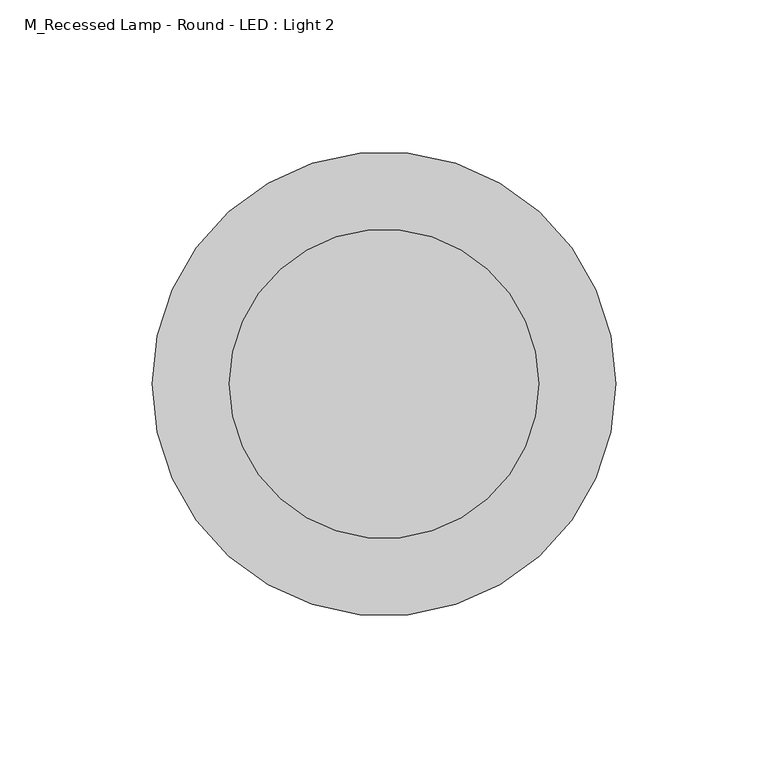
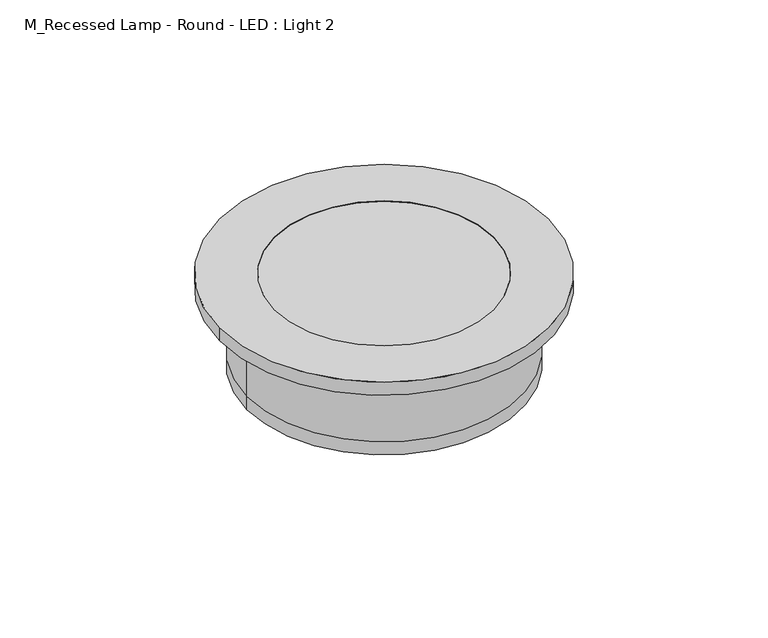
"""IFC4 building model written with IfcOpenShell, lengths in millimetres: light fixture geometry, M_Recessed Lamp - Round - LED : Light 2."""

from ifc_helpers import new_model, si_unit, point, frame, origin, origin_with_axes, origin_2d, place, context, project, spatial, polyline, circle_curve, trimmed, segment, composite_curve, outline, extrude, source, transform, mapped, element, save
from ifc_brep_helpers import plane_surface, cylinder_surface, revolved_surface, advanced_brep


def m_recessed_lamp_round_led_light_2_4ee42974(model_context):
    return source(origin(), model_context, "Body", "SolidModel", [
        extrude(outline(composite_curve([segment(trimmed(circle_curve(origin_2d(), 76.2), [point((-76.2, 0.0))], [point((76.2, 0.0))], False, "CARTESIAN"), True, "CONTINUOUS"), segment(trimmed(circle_curve(origin_2d(), 76.2), [point((76.2, 0.0))], [point((-76.2, 0.0))], False, "CARTESIAN"), True, "CONTINUOUS")], self_intersect=False), holes=[composite_curve([segment(trimmed(circle_curve(origin_2d(), 50.8), [point((-50.8, 0.0))], [point((50.8, 0.0))], True, "CARTESIAN"), True, "CONTINUOUS"), segment(trimmed(circle_curve(origin_2d(), 50.8), [point((50.8, 0.0))], [point((-50.8, 0.0))], True, "CARTESIAN"), True, "CONTINUOUS")], self_intersect=False)]), origin_with_axes(), (0.0, 0.0, 1.0), 6.35),
        extrude(outline(composite_curve([segment(trimmed(circle_curve(origin_2d(), 50.8), [point((-50.8, 0.0))], [point((50.8, 0.0))], False, "CARTESIAN"), True, "CONTINUOUS"), segment(trimmed(circle_curve(origin_2d(), 50.8), [point((50.8, 0.0))], [point((-50.8, 0.0))], False, "CARTESIAN"), True, "CONTINUOUS")], self_intersect=False)), origin_with_axes(), (0.0, 0.0, 1.0), 6.35),
        advanced_brep(
        [(-50.8, 0.0, -31.75), (50.8, 0.0, -31.75), (-63.5, 0.0, -38.1), (63.5, 0.0, -38.1), (63.5, 0.0, -31.75), (-63.5, 0.0, -31.75), (-63.5, 0.0, 0.0), (63.5, 0.0, 0.0), (-50.8, 0.0, 0.0), (50.8, 0.0, 0.0)],
        [
            (0, 1, circle_curve(frame((0.0, 0.0, -31.75), z_axis=(0.0, 0.0, 1.0), x_axis=(1.0, 0.0, 0.0)), 50.8)),
            (1, 0, circle_curve(frame((0.0, 0.0, -31.75), z_axis=(0.0, 0.0, 1.0), x_axis=(1.0, 0.0, 0.0)), 50.8)),
            (2, 3, circle_curve(frame((0.0, 0.0, -38.1), z_axis=(0.0, 0.0, -1.0), x_axis=(1.0, 0.0, 0.0)), 63.5)),
            (3, 2, circle_curve(frame((0.0, 0.0, -38.1), z_axis=(0.0, 0.0, -1.0), x_axis=(1.0, 0.0, 0.0)), 63.5)),
            (3, 4),
            (4, 5, circle_curve(frame((0.0, 0.0, -31.75), z_axis=(0.0, 0.0, -1.0), x_axis=(1.0, 0.0, 0.0)), 63.5)),
            (5, 2),
            (5, 4, circle_curve(frame((0.0, 0.0, -31.75), z_axis=(0.0, 0.0, -1.0), x_axis=(1.0, 0.0, 0.0)), 63.5)),
            (6, 7, circle_curve(origin_with_axes(), 63.5)),
            (7, 6, circle_curve(origin_with_axes(), 63.5)),
            (8, 9, circle_curve(frame((0.0, 0.0, 0.0), z_axis=(0.0, 0.0, -1.0), x_axis=(1.0, 0.0, 0.0)), 50.8)),
            (9, 8, circle_curve(frame((0.0, 0.0, 0.0), z_axis=(0.0, 0.0, -1.0), x_axis=(1.0, 0.0, 0.0)), 50.8)),
            (9, 1),
            (0, 8),
            (6, 5),
            (4, 7),
        ],
        [
            plane_surface(frame((63.5, 0.0, -31.75), z_axis=(0.0, 0.0, 1.0), x_axis=(0.0, 1.0, 0.0))),
            plane_surface(frame((63.5, 0.0, -38.1), z_axis=(0.0, 0.0, -1.0), x_axis=(0.0, -1.0, 0.0))),
            cylinder_surface(frame((0.0, 0.0, -38.1), z_axis=(0.0, 0.0, 1.0), x_axis=(1.0, 0.0, 0.0)), 63.5),
            plane_surface(frame((50.8, 0.0, 0.0), z_axis=(0.0, 0.0, 1.0), x_axis=(0.0, -1.0, 0.0))),
            revolved_surface(polyline([(50.8, 0.0, -31.75), (50.8, 0.0, 0.0)]), (0.0, 0.0, -31.75), (0.0, 0.0, -1.0)),
            cylinder_surface(origin_with_axes(), 63.5),
        ],
        [
            (0, [[1, 2]]),
            (1, [[3, 4]]),
            (2, [[-4, 5, 6, 7]]),
            (2, [[-3, -7, 8, -5]]),
            (3, [[9, 10], [11, 12]]),
            (4, [[-12, 13, -1, 14]]),
            (4, [[-11, -14, -2, -13]]),
            (5, [[-9, 15, -6, 16]]),
            (5, [[-10, -16, -8, -15]]),
        ],
    ),
    ])


if __name__ == "__main__":
    model = new_model("IFC4")
    model_context = context("Model", 3, world=origin())
    ifc_project = project(units=[si_unit("LENGTHUNIT", "METRE", prefix="MILLI")], contexts=[model_context])
    site = spatial("IfcSite", under=ifc_project)
    building = spatial("IfcBuilding", under=site)
    placement = place(None, origin())
    m_recessed_lamp_round_led_light_2_shape = m_recessed_lamp_round_led_light_2_4ee42974(model_context)
    element("IfcLightFixture", 1, ObjectType="M_Recessed Lamp - Round - LED : Light 2", at=placement, inside=building, context=model_context, shape_type="MappedRepresentation", body=[
        mapped(m_recessed_lamp_round_led_light_2_shape, transform((0.0, 0.0, 0.0), x_axis=(1.0, 0.0, 0.0), y_axis=(0.0, 1.0, 0.0), z_axis=(0.0, 0.0, 1.0))),
    ])
    save(model, "model.ifc")
